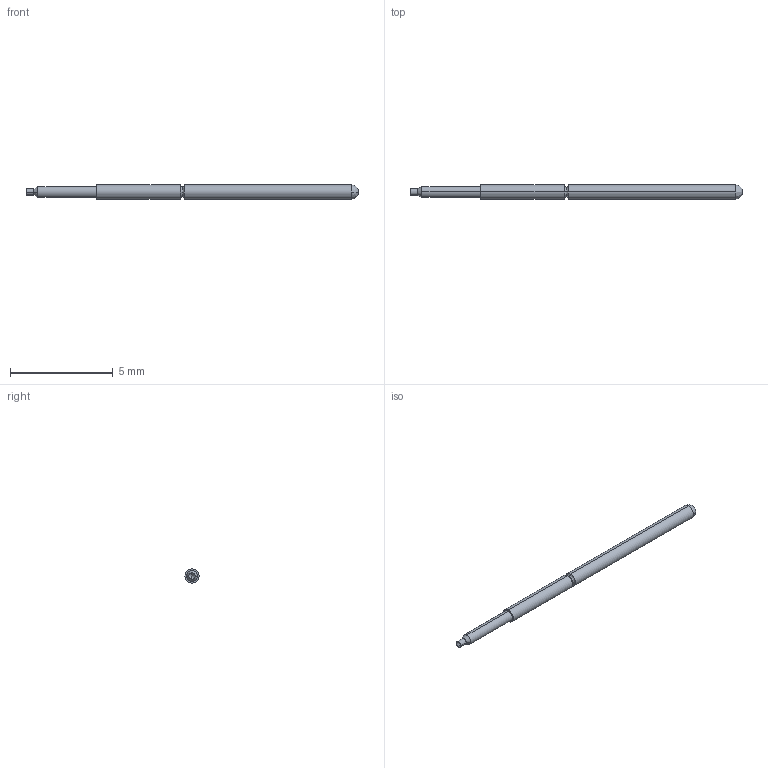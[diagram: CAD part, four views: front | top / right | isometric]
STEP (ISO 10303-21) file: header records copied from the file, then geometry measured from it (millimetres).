
FILE_DESCRIPTION (( 'STEP AP214' ), '1' );
FILE_NAME ('PA1A-012.STEP', '2021-08-24T13:44:28', ( '' ), ( '' ), 'SwSTEP 2.0', 'SolidWorks 2021', '' );
FILE_SCHEMA (( 'AUTOMOTIVE_DESIGN' ));
Length unit declared in the file: inch
Products named in the file (1): PA1A-012
Bounding box: 16.13 x 0.69 x 0.69 mm (x, y, z)
Volume: 5.3 mm3; surface area: 33.2 mm2
Topology: 1 solids, 1 shells, 20 faces, 46 edges, 27 vertices
Faces by surface type: cylinder 8, bspline 6, cone 4, plane 2
Entity records: 926 total; most frequent: CARTESIAN_POINT 194, DIRECTION 98, ORIENTED_EDGE 88, EDGE_CURVE 44, AXIS2_PLACEMENT_3D 43, CIRCLE 28, VERTEX_POINT 27, UNCERTAINTY_MEASURE_WITH_UNIT 23
